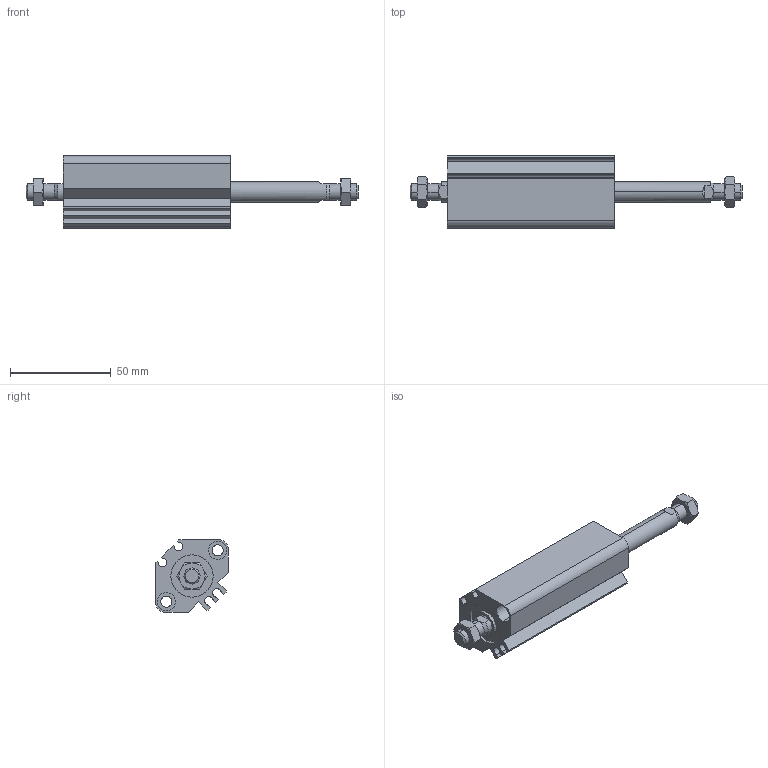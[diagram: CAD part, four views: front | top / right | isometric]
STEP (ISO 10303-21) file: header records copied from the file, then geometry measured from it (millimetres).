
FILE_DESCRIPTION (( 'STEP AP203' ), '1' );
FILE_NAME ('CCMB20-45M-P.STEP', '2020-08-10T11:22:34', ( '' ), ( '' ), 'SwSTEP 2.0', 'SolidWorks 2019', '' );
FILE_SCHEMA (( 'CONFIG_CONTROL_DESIGN' ));
Length unit declared in the file: millimetre
Products named in the file (1): CCMB20-45M-P
Bounding box: 165 x 36 x 36 mm (x, y, z)
Volume: 76671.6 mm3; surface area: 31804 mm2
Topology: 4 solids, 4 shells, 166 faces, 384 edges, 240 vertices
Faces by surface type: plane 66, cylinder 56, cone 44
Entity records: 5367 total; most frequent: CARTESIAN_POINT 1507, DIRECTION 806, ORIENTED_EDGE 768, EDGE_CURVE 384, AXIS2_PLACEMENT_3D 319, VERTEX_POINT 240, EDGE_LOOP 190, LINE 168
